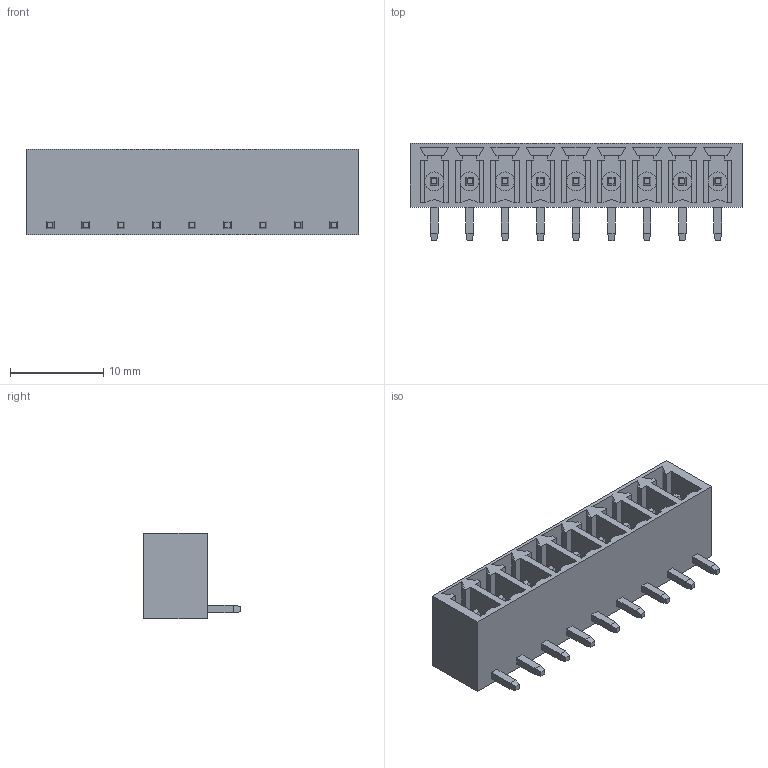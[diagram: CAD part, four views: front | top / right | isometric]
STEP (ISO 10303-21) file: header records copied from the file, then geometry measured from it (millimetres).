
FILE_DESCRIPTION((''),'2;1');
FILE_NAME('395126009','2015-01-28T',('me'),(''),'PRO/ENGINEER BY PARAMETRIC TECHNOLOGY CORPORATION, 2011490','PRO/ENGINEER BY PARAMETRIC TECHNOLOGY CORPORATION, 2011490','');
FILE_SCHEMA(('CONFIG_CONTROL_DESIGN'));
Length unit declared in the file: inch
Products named in the file (1): 395126009
Bounding box: 35.69 x 10.41 x 9.14 mm (x, y, z)
Volume: 1198.2 mm3; surface area: 3123.1 mm2
Topology: 1 solids, 1 shells, 375 faces, 975 edges, 638 vertices
Faces by surface type: plane 348, cylinder 27
Entity records: 11203 total; most frequent: CARTESIAN_POINT 1953, ORIENTED_EDGE 1896, DIRECTION 1817, EDGE_CURVE 948, VECTOR 885, LINE 885, VERTEX_POINT 602, AXIS2_PLACEMENT_3D 466
